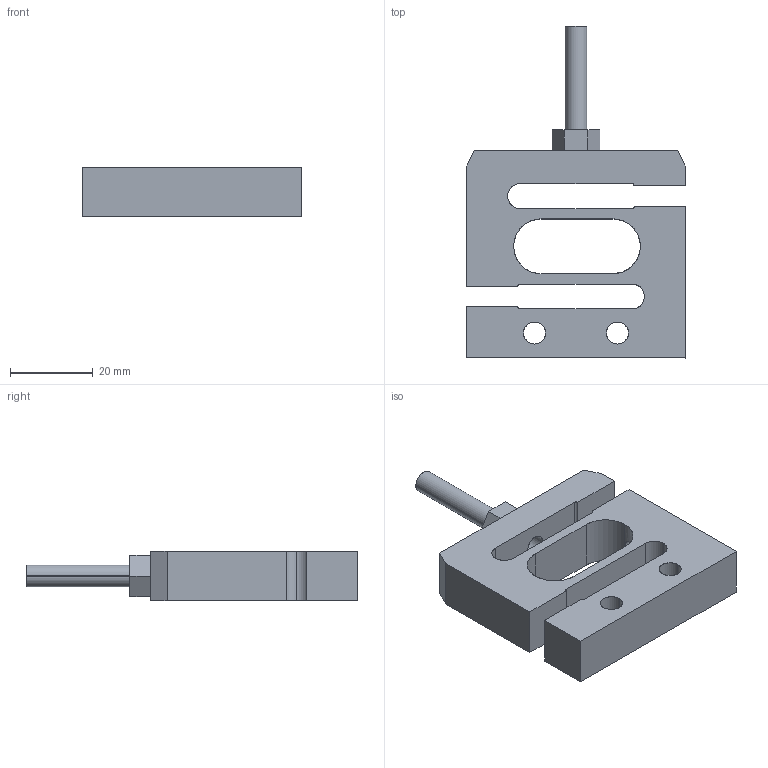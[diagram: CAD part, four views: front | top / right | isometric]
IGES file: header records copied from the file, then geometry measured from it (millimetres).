
Start section: SolidWorks IGES file using analytic representation for surfaces
Global section: file name: O:\16-Entwicklung\Projekte\03_Kraftsensoren\0209_KM500\01_Mechanik & Gehäuse\01_Solid Works\01_Outline 3D files\3D_KM500.IGS; native system: SolidWorks 2012; preprocessor: SolidWorks 2012; author: AndreB; date: 140723.101153; units: metre
Bounding box: 53 x 80 x 12 mm (x, y, z)
Surface area: 10321.6 mm2 (no closed solid volume)
Topology: 0 solids, 0 shells, 61 faces, 894 edges, 894 vertices
Faces by surface type: bspline 31, revolution 30
